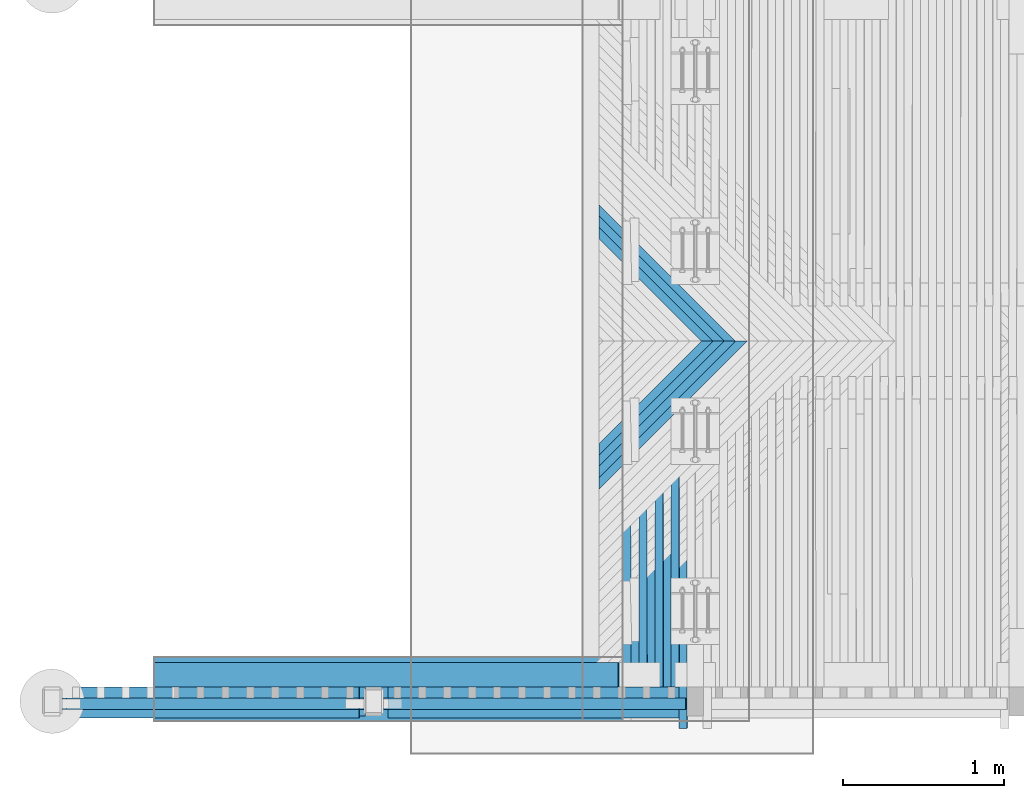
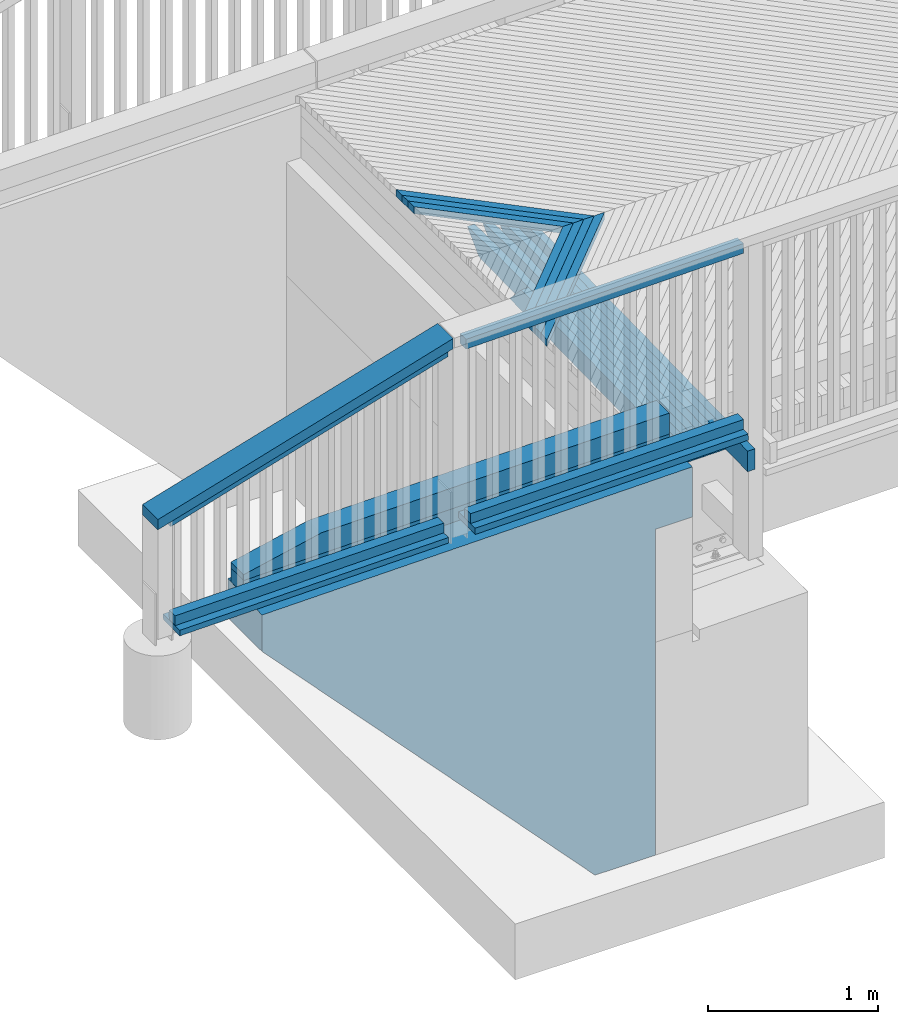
# One storey, part 16 of 52: 25 beams.
"""IFC2X3 building model written with IfcOpenShell, lengths in millimetres."""

from ifc_helpers import new_model, si_unit, frame, origin_with_axes, place, context, subcontext, project, spatial, faceted_brep, material, type_object, element, save


model = new_model("IFC2X3")

# Units and contexts
model_context = context("Model", 3, precision=1e-05, world=origin_with_axes())
body_context = subcontext(model_context, "Body", "Model", "MODEL_VIEW")
ifc_project = project(units=[si_unit("LENGTHUNIT", "METRE", prefix="MILLI"), si_unit("AREAUNIT", "SQUARE_METRE"), si_unit("VOLUMEUNIT", "CUBIC_METRE"), si_unit("MASSUNIT", "GRAM", prefix="KILO"), si_unit("TIMEUNIT", "SECOND"), si_unit("PLANEANGLEUNIT", "RADIAN"), si_unit("SOLIDANGLEUNIT", "STERADIAN"), si_unit("THERMODYNAMICTEMPERATUREUNIT", "DEGREE_CELSIUS"), si_unit("LUMINOUSINTENSITYUNIT", "LUMEN")], contexts=[model_context])

# Site, building, storey
site_placement = place(None, origin_with_axes())
site = spatial("IfcSite", under=ifc_project, at=site_placement, Name="Undefined", CompositionType="ELEMENT")
building_placement = place(site_placement, origin_with_axes())
building = spatial("IfcBuilding", under=site, at=building_placement, Name="Undefined", CompositionType="ELEMENT")
storey_placement = place(building_placement, origin_with_axes())
storey = spatial("IfcBuildingStorey", under=building, at=storey_placement, Name="Undefined", CompositionType="ELEMENT", Elevation=0.0)

# Beams
ifc_material_1 = material(Name="TIMBER/Timber_Undefined")
beam_type_1 = type_object("IfcBeamType", Name="150*100", PredefinedType="NOTDEFINED")
beam_1_placement = place(storey_placement, frame((-3364.03058800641, 289.999999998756, 3118.6757290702), z_axis=(0.0, -1.0, 0.0), x_axis=(0.999904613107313, 0.0, 0.0138117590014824)))
element("IfcBeam", 1, at=beam_1_placement, inside=storey, type_object=beam_type_1, material=ifc_material_1, Name="TÖRMÄYSJOHDE", ObjectType="150*100", context=body_context, shape_type="Brep", body=[
    faceted_brep([(-3.63797880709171e-12, 50.0, -75.0), (-3.63797880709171e-12, 50.0, 75.0), (2885.27521749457, 50.0, 75.0), (2885.27521749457, 50.0, -75.0), (0.0, -49.9999999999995, 75.0), (2885.27521749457, -49.9999999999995, 75.0), (0.0, -49.9999999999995, -75.0), (2885.27521749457, -49.9999999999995, -75.0)], [[[0, 1, 2, 3]], [[1, 4, 5, 2]], [[4, 6, 7, 5]], [[6, 0, 3, 7]], [[5, 7, 3, 2]], [[6, 4, 1, 0]]]),
])
beam_type_2 = type_object("IfcBeamType", Name="150*150", PredefinedType="NOTDEFINED")
beam_2_placement = place(storey_placement, frame((-3366.03588197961, 289.999999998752, 3243.66334439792), z_axis=(0.0, -1.0, 0.0), x_axis=(0.999904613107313, 0.0, 0.0138117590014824)))
element("IfcBeam", 2, at=beam_2_placement, inside=storey, type_object=beam_type_2, material=ifc_material_1, Name="TÖRMÄYSJOHDE", ObjectType="150*150", context=body_context, shape_type="Brep", body=[
    faceted_brep([(0.0, -75.0000000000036, 75.0000000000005), (0.0, -75.0, -74.9999999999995), (2885.27521749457, -74.9999999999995, -75.0), (2885.27521749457, -74.9999999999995, 75.0), (2885.27521749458, 75.0, -75.0), (2885.27521749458, 75.0, 75.0), (529.511118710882, 75.0, -75.0), (529.511118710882, 75.0, 75.0), (4.54747350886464e-13, -33.1222400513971, 75.0), (4.54747350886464e-13, -33.1222400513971, -75.0)], [[[0, 1, 2, 3]], [[3, 2, 4, 5]], [[5, 4, 6, 7]], [[0, 3, 5, 7, 8]], [[1, 0, 8, 9]], [[4, 2, 1, 9, 6]], [[8, 7, 6, 9]]]),
])
ifc_material_2 = material(Name="CONCRETE/Concrete_Undefined")
beam_type_3 = type_object("IfcBeamType", Name="2800*400", PredefinedType="NOTDEFINED")
beam_3_placement = place(storey_placement, frame((-430.340033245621, 200.0, 1712.66804762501), z_axis=(-0.0140428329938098, 0.0, 0.999901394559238), x_axis=(-0.999901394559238, 0.0, -0.0140428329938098)))
element("IfcBeam", 3, at=beam_3_placement, inside=storey, type_object=beam_type_3, material=ifc_material_2, Name="SIIPIMUURI", ObjectType="2800*400", context=body_context, shape_type="Brep", body=[
    faceted_brep([(0.280884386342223, 199.999999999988, 1380.0), (3.63797880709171e-12, -200.0, 1400.0), (2915.2874638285, -200.0, 1400.0), (2915.5683481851, 200.0, 1380.0), (270.457242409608, 199.999999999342, -54.8754727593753), (270.457242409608, -200.0, -54.8754727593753), (255.29098277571, -200.0, 1025.01803336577), (255.29098277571, 199.999999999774, 1025.01803336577), (288.066954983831, 200.0, -1308.75182153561), (288.066954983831, -200.0, -1308.75182153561), (697.173583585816, 200.0, -1303.00623892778), (697.173583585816, -200.0, -1303.00623892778), (2919.22031514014, 200.0, 1119.96651154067), (2919.22031514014, -200.0, 1119.96651154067), (5.31563413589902, -200.0, 1021.50732511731), (5.31563413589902, 199.999999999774, 1021.50732511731)], [[[0, 1, 2, 3]], [[4, 5, 6, 7]], [[8, 9, 5, 4]], [[10, 11, 9, 8]], [[12, 13, 11, 10]], [[13, 12, 3, 2]], [[6, 5, 9, 11, 13, 2, 1, 14]], [[7, 6, 14, 15]], [[12, 10, 8, 4, 7, 15, 0, 3]], [[15, 14, 1, 0]]]),
])
beam_type_4 = type_object("IfcBeamType", Name="70*70", PredefinedType="NOTDEFINED")
beam_4_placement = place(storey_placement, frame((-3930.40492440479, 110.009954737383, 3879.53617466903), z_axis=(0.0, -1.0, 0.0), x_axis=(0.958203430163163, 0.0, 0.286087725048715)))
element("IfcBeam", 4, at=beam_4_placement, inside=storey, type_object=beam_type_4, material=ifc_material_1, Name="BEAM", ObjectType="70*70", context=body_context, shape_type="Brep", body=[
    faceted_brep([(0.436228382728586, 35.0000000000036, -35.0), (0.436228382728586, 35.0000000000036, 35.0), (1962.44131083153, 35.0000000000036, 35.0), (1962.44131083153, 35.0000000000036, -35.0), (-20.4634471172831, -34.9999999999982, 35.0), (1941.54163533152, -34.9999999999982, 35.0), (-20.4634471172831, -34.9999999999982, -35.0), (1941.54163533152, -34.9999999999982, -35.0)], [[[0, 1, 2, 3]], [[1, 4, 5, 2]], [[4, 6, 7, 5]], [[6, 0, 3, 7]], [[5, 7, 3, 2]], [[6, 4, 1, 0]]]),
])
beam_5_placement = place(storey_placement, frame((-3909.4703719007, 110.00997004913, 3156.34116342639), z_axis=(0.0, -1.0, 0.0), x_axis=(0.999883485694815, 0.0, 0.0152648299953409)))
element("IfcBeam", 5, at=beam_5_placement, inside=storey, type_object=beam_type_4, material=ifc_material_1, Name="BEAM", ObjectType="70*70", context=body_context, shape_type="Brep", body=[
    faceted_brep([(-3.63797880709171e-12, 35.0000000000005, -35.0), (-3.63797880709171e-12, 35.0000000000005, 35.0), (1820.22135781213, 35.0, 35.0), (1820.22135781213, 35.0, -35.0), (-3.63797880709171e-12, -34.9999999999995, 35.0), (1820.22135781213, -34.9999999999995, 35.0), (-3.63797880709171e-12, -34.9999999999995, -35.0), (1820.22135781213, -34.9999999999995, -35.0)], [[[0, 1, 2, 3]], [[1, 4, 5, 2]], [[4, 6, 7, 5]], [[6, 0, 3, 7]], [[5, 7, 3, 2]], [[6, 4, 1, 0]]]),
])
beam_6_placement = place(storey_placement, frame((-1909.4703719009, 110.00997004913, 3186.87116342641), z_axis=(0.0, -1.0, 0.0), x_axis=(0.999883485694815, 0.0, 0.0152648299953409)))
element("IfcBeam", 6, at=beam_6_placement, inside=storey, type_object=beam_type_4, material=ifc_material_1, Name="BEAM", ObjectType="70*70", context=body_context, shape_type="Brep", body=[
    faceted_brep([(-3.63797880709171e-12, 35.0000000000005, -35.0), (-3.63797880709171e-12, 35.0000000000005, 35.0), (1850.22135781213, 34.9999999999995, 35.0), (1850.22135781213, 34.9999999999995, -35.0), (-3.63797880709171e-12, -34.9999999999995, 35.0), (1850.22135781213, -35.0, 35.0), (-3.63797880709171e-12, -34.9999999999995, -35.0), (1850.22135781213, -35.0, -35.0)], [[[0, 1, 2, 3]], [[1, 4, 5, 2]], [[4, 6, 7, 5]], [[6, 0, 3, 7]], [[5, 7, 3, 2]], [[6, 4, 1, 0]]]),
])
beam_7_placement = place(storey_placement, frame((-1939.46687647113, 110.009970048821, 4446.41321852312), z_axis=(0.0, -1.0, 0.0), x_axis=(0.999883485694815, 0.0, 0.0152648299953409)))
element("IfcBeam", 7, at=beam_7_placement, inside=storey, type_object=beam_type_4, material=ifc_material_1, Name="BEAM", ObjectType="70*70", context=body_context, shape_type="Brep", body=[
    faceted_brep([(-3.63797880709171e-12, 35.0000000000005, -35.0), (-3.63797880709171e-12, 35.0000000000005, 35.0), (1880.22135781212, 35.0000000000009, 35.0), (1880.22135781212, 35.0000000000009, -35.0), (-3.63797880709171e-12, -34.9999999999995, 35.0), (1880.22135781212, -35.0, 35.0), (-3.63797880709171e-12, -34.9999999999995, -35.0), (1880.22135781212, -35.0, -35.0)], [[[0, 1, 2, 3]], [[1, 4, 5, 2]], [[4, 6, 7, 5]], [[6, 0, 3, 7]], [[5, 7, 3, 2]], [[6, 4, 1, 0]]]),
])
beam_type_5 = type_object("IfcBeamType", Name="195*40", PredefinedType="NOTDEFINED")
beam_8_placement = place(storey_placement, frame((-3909.69934434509, 117.50997004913, 3101.33941571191), z_axis=(0.0, -1.0, 0.0), x_axis=(0.999883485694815, 0.0, 0.0152648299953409)))
element("IfcBeam", 8, at=beam_8_placement, inside=storey, type_object=beam_type_5, material=ifc_material_1, Name="BEAM", ObjectType="195*40", context=body_context, shape_type="Brep", body=[
    faceted_brep([(0.0, 20.0, -97.5), (0.0, 20.0, 97.5), (1820.22135781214, 20.0, 97.5), (1820.22135781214, 20.0, -97.5), (3.63797880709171e-12, -20.0, 97.5), (1820.22135781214, -20.0, 97.5), (3.63797880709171e-12, -20.0, -97.5), (1820.22135781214, -20.0, -97.5)], [[[0, 1, 2, 3]], [[1, 4, 5, 2]], [[4, 6, 7, 5]], [[6, 0, 3, 7]], [[5, 7, 3, 2]], [[6, 4, 1, 0]]]),
])
beam_type_6 = type_object("IfcBeamType", Name="180*70", PredefinedType="NOTDEFINED")
beam_9_placement = place(storey_placement, frame((-2039.93420243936, 125.009964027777, 4517.05500293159), z_axis=(0.0, -1.0, 0.0), x_axis=(-0.958243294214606, 0.0, -0.285954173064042)))
element("IfcBeam", 9, at=beam_9_placement, inside=storey, type_object=beam_type_6, material=ifc_material_1, Name="YLÄJOHDE", ObjectType="180*70", context=body_context, shape_type="Brep", body=[
    faceted_brep([(41.6879268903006, 35.0699417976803, -90.0), (41.8028913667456, -34.9299637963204, -90.0), (0.0598773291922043, -34.9999487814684, -90.0), (20.9594530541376, 35.0351891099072, -90.0), (41.8028913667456, -34.9299637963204, 90.0), (41.6879268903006, 35.0699417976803, 90.0), (20.9594530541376, 35.0351891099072, 90.0), (0.0598773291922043, -34.9999487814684, 90.0), (83.4357358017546, 35.1370779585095, 90.0), (83.4357358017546, 35.1370779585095, -90.0), (83.5459100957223, -34.8628353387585, -90.0), (83.5459100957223, -34.8628353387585, 90.0), (125.288933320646, -34.7985634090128, 90.0), (125.183549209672, 35.2013572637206, 90.0), (125.183549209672, 35.2013572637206, -90.0), (125.288933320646, -34.7985634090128, -90.0), (167.031960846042, -34.7371480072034, -90.0), (167.031960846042, -34.7371480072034, 90.0), (166.931366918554, 35.2627797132, 90.0), (166.931366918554, 35.2627797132, -90.0), (208.679188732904, 35.3213453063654, -90.0), (208.774992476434, -34.6785891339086, -90.0), (208.774992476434, -34.6785891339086, 90.0), (208.679188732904, 35.3213453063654, 90.0), (250.427014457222, 35.3770540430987, 90.0), (250.427014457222, 35.3770540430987, -90.0), (250.518028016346, -34.6228867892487, -90.0), (250.518028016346, -34.6228867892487, 90.0), (292.261067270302, -34.57004097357, 90.0), (292.17484389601, 35.4299059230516, 90.0), (292.17484389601, 35.4299059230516, -90.0), (292.261067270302, -34.57004097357, -90.0), (334.004110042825, -34.5200516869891, -90.0), (334.004110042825, -34.5200516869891, 90.0), (333.92267685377, 35.4799009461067, 90.0), (333.92267685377, 35.4799009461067, -90.0), (375.670513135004, 35.527039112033, -90.0), (375.747156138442, -34.4729189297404, -90.0), (375.747156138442, -34.4729189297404, 90.0), (375.670513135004, 35.527039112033, 90.0), (417.418352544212, 35.5713204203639, 90.0), (417.418352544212, 35.5713204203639, -90.0), (417.490205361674, -34.428642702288, -90.0), (417.490205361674, -34.428642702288, 90.0), (459.233257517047, -34.3872230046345, 90.0), (459.166194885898, 35.6127448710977, 90.0), (459.166194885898, 35.6127448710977, -90.0), (459.233257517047, -34.3872230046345, -90.0), (500.976312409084, -34.3486598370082, -90.0), (500.976312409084, -34.3486598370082, 90.0), (500.914039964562, 35.651312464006, 90.0), (500.914039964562, 35.651312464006, -90.0), (542.661887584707, 35.6870231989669, -90.0), (542.71936984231, -34.3129531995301, -90.0), (542.71936984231, -34.3129531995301, 90.0), (542.661887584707, 35.6870231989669, 90.0), (584.409737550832, 35.7198770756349, 90.0), (584.409737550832, 35.7198770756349, -90.0), (584.462429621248, -34.2801030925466, -90.0), (584.462429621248, -34.2801030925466, 90.0), (626.205491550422, -34.2501095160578, 90.0), (626.157589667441, 35.7498740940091, 90.0), (626.157589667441, 35.7498740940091, -90.0), (626.205491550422, -34.2501095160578, -90.0), (667.948555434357, -34.222972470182, -90.0), (667.948555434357, -34.222972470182, 90.0), (667.905443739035, 35.777014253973, 90.0), (667.905443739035, 35.777014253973, -90.0), (709.653299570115, 35.801297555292, -90.0), (709.691621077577, -34.19869195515, -90.0), (709.691621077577, -34.19869195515, 90.0), (709.653299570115, 35.801297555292, 90.0), (751.401156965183, 35.8227239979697, 90.0), (751.401156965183, 35.8227239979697, -90.0), (751.434688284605, -34.1772679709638, -90.0), (751.434688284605, -34.1772679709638, 90.0), (793.177756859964, -34.1587005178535, 90.0), (793.14901572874, 35.8412935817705, 90.0), (793.14901572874, 35.8412935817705, -90.0), (793.177756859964, -34.1587005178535, -90.0), (834.920826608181, -34.1429895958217, -90.0), (834.920826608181, -34.1429895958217, 90.0), (834.896875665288, 35.8570063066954, 90.0), (834.896875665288, 35.8570063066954, -90.0), (876.644736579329, 35.8698621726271, -90.0), (876.663897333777, -34.1301352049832, -90.0), (876.663897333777, -34.1301352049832, 90.0), (876.644736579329, 35.8698621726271, 90.0), (918.392598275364, 35.8798611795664, 90.0), (918.392598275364, 35.8798611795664, -90.0), (918.406968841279, -34.1201373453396, -90.0), (918.406968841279, -34.1201373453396, 90.0), (960.150040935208, -34.1129960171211, 90.0), (960.140460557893, 35.8870033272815, 90.0), (960.140460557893, 35.8870033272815, -90.0), (960.150040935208, -34.1129960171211, -90.0), (1001.89311342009, -34.1087112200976, -90.0), (1001.89311342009, -34.1087112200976, 90.0), (1001.88832323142, 35.8912886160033, 90.0), (1001.88832323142, 35.8912886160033, -90.0), (1043.63618610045, 35.8927170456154, -90.0), (1043.63618610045, -34.1072829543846, -90.0), (1043.63618610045, -34.1072829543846, 90.0), (1043.63618610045, 35.8927170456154, 90.0), (1085.38404896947, 35.8912886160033, 90.0), (1085.38404896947, 35.8912886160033, -90.0), (1085.3792587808, -34.1087112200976, -90.0), (1085.3792587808, -34.1087112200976, 90.0), (1127.12233126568, -34.1129960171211, 90.0), (1127.131911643, 35.8870033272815, 90.0), (1127.131911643, 35.8870033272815, -90.0), (1127.12233126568, -34.1129960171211, -90.0), (1168.86540335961, -34.1201373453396, -90.0), (1168.86540335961, -34.1201373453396, 90.0), (1168.87977392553, 35.8798611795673, 90.0), (1168.87977392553, 35.8798611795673, -90.0), (1210.62763562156, 35.8698621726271, -90.0), (1210.60847486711, -34.1301352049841, -90.0), (1210.60847486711, -34.1301352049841, 90.0), (1210.62763562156, 35.8698621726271, 90.0), (1252.3754965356, 35.8570063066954, 90.0), (1252.3754965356, 35.8570063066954, -90.0), (1252.35154559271, -34.1429895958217, -90.0), (1252.35154559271, -34.1429895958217, 90.0), (1294.09461534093, -34.1587005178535, 90.0), (1294.12335647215, 35.8412935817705, 90.0), (1294.12335647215, 35.8412935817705, -90.0), (1294.09461534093, -34.1587005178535, -90.0), (1335.83768391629, -34.1772679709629, -90.0), (1335.83768391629, -34.1772679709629, 90.0), (1335.87121523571, 35.8227239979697, 90.0), (1335.87121523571, 35.8227239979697, -90.0), (1377.61907263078, 35.8012975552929, -90.0), (1377.58075112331, -34.1986919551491, -90.0), (1377.58075112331, -34.1986919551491, 90.0), (1377.61907263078, 35.8012975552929, 90.0), (1419.36692846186, 35.777014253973, 90.0), (1419.36692846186, 35.777014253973, -90.0), (1419.32381676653, -34.222972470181, -90.0), (1419.32381676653, -34.222972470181, 90.0), (1461.06688065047, -34.2501095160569, 90.0), (1461.11478253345, 35.7498740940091, 90.0), (1461.11478253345, 35.7498740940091, -90.0), (1461.06688065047, -34.2501095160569, -90.0), (1502.80994257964, -34.2801030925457, -90.0), (1502.80994257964, -34.2801030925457, 90.0), (1502.86263465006, 35.7198770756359, 90.0), (1502.86263465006, 35.7198770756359, -90.0), (1544.61048461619, 35.6870231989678, -90.0), (1544.55300235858, -34.3129531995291, -90.0), (1544.55300235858, -34.3129531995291, 90.0), (1544.61048461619, 35.6870231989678, 90.0), (1586.35833223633, 35.6513124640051, 90.0), (1586.35833223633, 35.6513124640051, -90.0), (1586.29605979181, -34.3486598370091, -90.0), (1586.29605979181, -34.3486598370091, 90.0), (1628.03911468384, -34.3872230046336, 90.0), (1628.10617731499, 35.6127448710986, 90.0), (1628.10617731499, 35.6127448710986, -90.0), (1628.03911468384, -34.3872230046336, -90.0), (1669.78216683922, -34.428642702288, -90.0), (1669.78216683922, -34.428642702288, 90.0), (1669.85401965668, 35.571320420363, 90.0), (1669.85401965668, 35.571320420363, -90.0), (1711.60185906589, 35.527039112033, -90.0), (1711.52521606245, -34.4729189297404, -90.0), (1711.52521606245, -34.4729189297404, 90.0), (1711.60185906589, 35.527039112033, 90.0), (1753.34969534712, 35.4799009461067, 90.0), (1753.34969534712, 35.4799009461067, -90.0), (1753.26826215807, -34.5200516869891, -90.0), (1753.26826215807, -34.5200516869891, 90.0), (1795.01130493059, -34.5700409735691, 90.0), (1795.09752830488, 35.4299059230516, 90.0), (1795.09752830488, 35.4299059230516, -90.0), (1795.01130493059, -34.5700409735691, -90.0), (1836.75434418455, -34.6228867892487, -90.0), (1836.75434418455, -34.6228867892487, 90.0), (1836.84535774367, 35.3770540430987, 90.0), (1836.84535774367, 35.3770540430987, -90.0), (1878.59318346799, 35.3213453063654, -90.0), (1878.49737972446, -34.6785891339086, -90.0), (1878.49737972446, -34.6785891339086, 90.0), (1878.59318346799, 35.3213453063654, 90.0), (1920.34100528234, 35.2627797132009, 90.0), (1920.34100528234, 35.2627797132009, -90.0), (1920.24041135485, -34.7371480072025, -90.0), (1920.24041135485, -34.7371480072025, 90.0), (1961.98343888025, -34.7985634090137, 90.0), (1962.08882299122, 35.2013572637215, 90.0), (1962.08882299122, 35.2013572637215, -90.0), (1961.98343888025, -34.7985634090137, -90.0), (2003.72646210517, -34.8628353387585, -90.0), (2003.72646210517, -34.8628353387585, 90.0), (2003.83663639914, 35.1370779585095, 90.0), (2003.83663639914, 35.1370779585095, -90.0), (2045.58444531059, 35.0699417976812, -90.0), (2045.46948083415, -34.9299637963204, -90.0), (2045.46948083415, -34.9299637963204, 90.0), (2045.58444531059, 35.0699417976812, 90.0), (2087.33224953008, 34.9999487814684, 90.0), (2087.33224953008, 34.9999487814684, -90.0), (2087.2124948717, -34.9999487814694, -90.0), (2087.2124948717, -34.9999487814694, 90.0), (2108.09074494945, 34.9637252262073, 90.0), (2108.09074494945, 34.9637252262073, -90.0)], [[[0, 1, 2, 3]], [[4, 5, 6, 7]], [[1, 4, 7, 2]], [[6, 3, 2, 7]], [[5, 0, 3, 6]], [[0, 5, 8, 9]], [[1, 0, 9, 10]], [[4, 1, 10, 11]], [[5, 4, 11, 8]], [[8, 11, 12, 13]], [[9, 8, 13, 14]], [[10, 9, 14, 15]], [[11, 10, 15, 12]], [[12, 15, 16, 17]], [[13, 12, 17, 18]], [[14, 13, 18, 19]], [[15, 14, 19, 16]], [[16, 19, 20, 21]], [[17, 16, 21, 22]], [[18, 17, 22, 23]], [[19, 18, 23, 20]], [[20, 23, 24, 25]], [[21, 20, 25, 26]], [[22, 21, 26, 27]], [[23, 22, 27, 24]], [[24, 27, 28, 29]], [[25, 24, 29, 30]], [[26, 25, 30, 31]], [[27, 26, 31, 28]], [[28, 31, 32, 33]], [[29, 28, 33, 34]], [[30, 29, 34, 35]], [[31, 30, 35, 32]], [[32, 35, 36, 37]], [[33, 32, 37, 38]], [[34, 33, 38, 39]], [[35, 34, 39, 36]], [[36, 39, 40, 41]], [[37, 36, 41, 42]], [[38, 37, 42, 43]], [[39, 38, 43, 40]], [[40, 43, 44, 45]], [[41, 40, 45, 46]], [[42, 41, 46, 47]], [[43, 42, 47, 44]], [[44, 47, 48, 49]], [[45, 44, 49, 50]], [[46, 45, 50, 51]], [[47, 46, 51, 48]], [[48, 51, 52, 53]], [[49, 48, 53, 54]], [[50, 49, 54, 55]], [[51, 50, 55, 52]], [[52, 55, 56, 57]], [[53, 52, 57, 58]], [[54, 53, 58, 59]], [[55, 54, 59, 56]], [[56, 59, 60, 61]], [[57, 56, 61, 62]], [[58, 57, 62, 63]], [[59, 58, 63, 60]], [[60, 63, 64, 65]], [[61, 60, 65, 66]], [[62, 61, 66, 67]], [[63, 62, 67, 64]], [[64, 67, 68, 69]], [[65, 64, 69, 70]], [[66, 65, 70, 71]], [[67, 66, 71, 68]], [[68, 71, 72, 73]], [[69, 68, 73, 74]], [[70, 69, 74, 75]], [[71, 70, 75, 72]], [[72, 75, 76, 77]], [[73, 72, 77, 78]], [[74, 73, 78, 79]], [[75, 74, 79, 76]], [[76, 79, 80, 81]], [[77, 76, 81, 82]], [[78, 77, 82, 83]], [[79, 78, 83, 80]], [[80, 83, 84, 85]], [[81, 80, 85, 86]], [[82, 81, 86, 87]], [[83, 82, 87, 84]], [[84, 87, 88, 89]], [[85, 84, 89, 90]], [[86, 85, 90, 91]], [[87, 86, 91, 88]], [[88, 91, 92, 93]], [[89, 88, 93, 94]], [[90, 89, 94, 95]], [[91, 90, 95, 92]], [[92, 95, 96, 97]], [[93, 92, 97, 98]], [[94, 93, 98, 99]], [[95, 94, 99, 96]], [[96, 99, 100, 101]], [[97, 96, 101, 102]], [[98, 97, 102, 103]], [[99, 98, 103, 100]], [[100, 103, 104, 105]], [[101, 100, 105, 106]], [[102, 101, 106, 107]], [[103, 102, 107, 104]], [[104, 107, 108, 109]], [[105, 104, 109, 110]], [[106, 105, 110, 111]], [[107, 106, 111, 108]], [[108, 111, 112, 113]], [[109, 108, 113, 114]], [[110, 109, 114, 115]], [[111, 110, 115, 112]], [[112, 115, 116, 117]], [[113, 112, 117, 118]], [[114, 113, 118, 119]], [[115, 114, 119, 116]], [[116, 119, 120, 121]], [[117, 116, 121, 122]], [[118, 117, 122, 123]], [[119, 118, 123, 120]], [[120, 123, 124, 125]], [[121, 120, 125, 126]], [[122, 121, 126, 127]], [[123, 122, 127, 124]], [[124, 127, 128, 129]], [[125, 124, 129, 130]], [[126, 125, 130, 131]], [[127, 126, 131, 128]], [[128, 131, 132, 133]], [[129, 128, 133, 134]], [[130, 129, 134, 135]], [[131, 130, 135, 132]], [[132, 135, 136, 137]], [[133, 132, 137, 138]], [[134, 133, 138, 139]], [[135, 134, 139, 136]], [[136, 139, 140, 141]], [[137, 136, 141, 142]], [[138, 137, 142, 143]], [[139, 138, 143, 140]], [[140, 143, 144, 145]], [[141, 140, 145, 146]], [[142, 141, 146, 147]], [[143, 142, 147, 144]], [[144, 147, 148, 149]], [[145, 144, 149, 150]], [[146, 145, 150, 151]], [[147, 146, 151, 148]], [[148, 151, 152, 153]], [[149, 148, 153, 154]], [[150, 149, 154, 155]], [[151, 150, 155, 152]], [[152, 155, 156, 157]], [[153, 152, 157, 158]], [[154, 153, 158, 159]], [[155, 154, 159, 156]], [[156, 159, 160, 161]], [[157, 156, 161, 162]], [[158, 157, 162, 163]], [[159, 158, 163, 160]], [[160, 163, 164, 165]], [[161, 160, 165, 166]], [[162, 161, 166, 167]], [[163, 162, 167, 164]], [[164, 167, 168, 169]], [[165, 164, 169, 170]], [[166, 165, 170, 171]], [[167, 166, 171, 168]], [[168, 171, 172, 173]], [[169, 168, 173, 174]], [[170, 169, 174, 175]], [[171, 170, 175, 172]], [[172, 175, 176, 177]], [[173, 172, 177, 178]], [[174, 173, 178, 179]], [[175, 174, 179, 176]], [[176, 179, 180, 181]], [[177, 176, 181, 182]], [[178, 177, 182, 183]], [[179, 178, 183, 180]], [[180, 183, 184, 185]], [[181, 180, 185, 186]], [[182, 181, 186, 187]], [[183, 182, 187, 184]], [[184, 187, 188, 189]], [[185, 184, 189, 190]], [[186, 185, 190, 191]], [[187, 186, 191, 188]], [[188, 191, 192, 193]], [[189, 188, 193, 194]], [[190, 189, 194, 195]], [[191, 190, 195, 192]], [[192, 195, 196, 197]], [[193, 192, 197, 198]], [[194, 193, 198, 199]], [[195, 194, 199, 196]], [[196, 199, 200, 201]], [[197, 196, 201, 202]], [[198, 197, 202, 203]], [[199, 198, 203, 200]], [[200, 203, 204]], [[201, 200, 204, 205]], [[201, 205, 202]], [[204, 203, 202, 205]]]),
])
beam_type_7 = type_object("IfcBeamType", Name="50*50", PredefinedType="NOTDEFINED")
beam_10_placement = place(storey_placement, frame((73.4729104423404, 2364.50010032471, 3183.9450845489), z_axis=(0.70722262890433, -0.706981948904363, -0.0035604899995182), x_axis=(-0.706832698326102, -0.706948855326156, -0.0247154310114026)))
element("IfcBeam", 10, at=beam_10_placement, inside=storey, type_object=beam_type_7, material=ifc_material_1, Name="BEAM", ObjectType="50*50", context=body_context, shape_type="Brep", body=[
    faceted_brep([(23.4806436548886, -25.0, -25.0), (-26.4222658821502, -25.0, 24.9999999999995), (-25.0086637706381, 24.9999999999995, 24.9999999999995), (24.894245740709, 25.0, -25.0), (928.319039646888, 25.0000000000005, -25.0), (927.261060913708, -24.9999999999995, -25.0000000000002), (977.288643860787, -24.9999999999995, 24.9999999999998), (978.346622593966, 25.0000000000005, 24.9999999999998)], [[[0, 1, 2, 3]], [[0, 3, 4, 5]], [[1, 0, 5, 6]], [[2, 1, 6, 7]], [[3, 2, 7, 4]], [[6, 5, 4, 7]]]),
])
beam_11_placement = place(storey_placement, frame((73.4729104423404, 2365.49989967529, 3183.9450845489), z_axis=(0.70722262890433, 0.706981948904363, -0.0035604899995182), x_axis=(-0.706832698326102, 0.706948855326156, -0.0247154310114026)))
element("IfcBeam", 11, at=beam_11_placement, inside=storey, type_object=beam_type_7, material=ifc_material_1, Name="BEAM", ObjectType="50*50", context=body_context, shape_type="Brep", body=[
    faceted_brep([(25.0011701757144, -25.0, -25.0), (-25.0011704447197, -25.0, 24.9999999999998), (-26.4154158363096, 25.0000000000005, 24.9999999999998), (23.5869248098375, 25.0, -25.0000000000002), (977.288643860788, 25.0, 24.9999999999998), (927.261060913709, 25.0, -25.0), (928.319039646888, -25.0000000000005, -25.0000000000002), (978.346622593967, -25.0, 25.0)], [[[0, 1, 2, 3]], [[3, 2, 4, 5]], [[0, 3, 5, 6]], [[1, 0, 6, 7]], [[2, 1, 7, 4]], [[6, 5, 4, 7]]]),
])
beam_12_placement = place(storey_placement, frame((144.191069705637, 2364.50010032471, 3184.87198634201), z_axis=(0.707222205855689, -0.706981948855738, -0.00364356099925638), x_axis=(-0.706835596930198, -0.706948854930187, -0.0246324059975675)))
element("IfcBeam", 12, at=beam_12_placement, inside=storey, type_object=beam_type_7, material=ifc_material_1, Name="BEAM", ObjectType="50*50", context=body_context, shape_type="Brep", body=[
    faceted_brep([(23.4806436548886, -25.0, -25.0), (-26.4222658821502, -25.0, 24.9999999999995), (-25.0086637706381, 24.9999999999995, 24.9999999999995), (24.894245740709, 25.0, -25.0), (1028.36004453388, 25.0000000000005, -25.0), (1027.310376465, -25.0, -24.9999999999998), (1077.33772433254, -25.0, 25.0), (1078.38739240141, 25.0000000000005, 25.0)], [[[0, 1, 2, 3]], [[0, 3, 4, 5]], [[1, 0, 5, 6]], [[2, 1, 6, 7]], [[3, 2, 7, 4]], [[6, 5, 4, 7]]]),
])
beam_13_placement = place(storey_placement, frame((144.191069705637, 2365.49989967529, 3184.87198634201), z_axis=(0.707222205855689, 0.706981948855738, -0.00364356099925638), x_axis=(-0.706835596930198, 0.706948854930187, -0.0246324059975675)))
element("IfcBeam", 13, at=beam_13_placement, inside=storey, type_object=beam_type_7, material=ifc_material_1, Name="BEAM", ObjectType="50*50", context=body_context, shape_type="Brep", body=[
    faceted_brep([(25.0011701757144, -25.0, -25.0), (-25.0011704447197, -25.0, 24.9999999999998), (-26.4154158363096, 25.0000000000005, 24.9999999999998), (23.5869248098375, 25.0, -25.0000000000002), (1077.33772433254, 25.0, 25.0000000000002), (1027.310376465, 25.0, -25.0), (1028.36004453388, -25.0000000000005, -25.0000000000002), (1078.38739240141, -25.0, 25.0)], [[[0, 1, 2, 3]], [[3, 2, 4, 5]], [[0, 3, 5, 6]], [[1, 0, 6, 7]], [[2, 1, 7, 4]], [[6, 5, 4, 7]]]),
])
beam_14_placement = place(storey_placement, frame((214.909337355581, 2364.50010032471, 3185.79058152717), z_axis=(0.707221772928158, -0.706981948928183, -0.00372663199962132), x_axis=(-0.706838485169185, -0.706948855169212, -0.024549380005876)))
element("IfcBeam", 14, at=beam_14_placement, inside=storey, type_object=beam_type_7, material=ifc_material_1, Name="BEAM", ObjectType="50*50", context=body_context, shape_type="Brep", body=[
    faceted_brep([(23.4806436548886, -25.0, -25.0), (-26.4222658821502, -25.0, 24.9999999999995), (-25.0086637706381, 24.9999999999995, 24.9999999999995), (24.894245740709, 25.0, -25.0), (1128.40039913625, 24.9999999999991, -24.9999999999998), (1127.35904169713, -25.0, -25.0), (1177.38615452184, -25.0000000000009, 25.0000000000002), (1178.42751196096, 25.0, 25.0000000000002)], [[[0, 1, 2, 3]], [[0, 3, 4, 5]], [[1, 0, 5, 6]], [[2, 1, 6, 7]], [[3, 2, 7, 4]], [[6, 5, 4, 7]]]),
])
beam_15_placement = place(storey_placement, frame((214.909337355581, 2365.49989967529, 3185.79058152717), z_axis=(0.707221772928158, 0.706981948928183, -0.00372663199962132), x_axis=(-0.706838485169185, 0.706948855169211, -0.024549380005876)))
element("IfcBeam", 15, at=beam_15_placement, inside=storey, type_object=beam_type_7, material=ifc_material_1, Name="BEAM", ObjectType="50*50", context=body_context, shape_type="Brep", body=[
    faceted_brep([(25.0011701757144, -25.0, -25.0), (-25.0011704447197, -25.0, 24.9999999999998), (-26.4154158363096, 25.0000000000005, 24.9999999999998), (23.5869248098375, 25.0, -25.0000000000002), (1177.38615452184, 25.0, 24.9999999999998), (1127.35904169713, 24.9999999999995, -24.9999999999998), (1128.40039913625, -25.0, -25.0), (1178.42751196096, -25.0, 24.9999999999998)], [[[0, 1, 2, 3]], [[3, 2, 4, 5]], [[0, 3, 5, 6]], [[1, 0, 6, 7]], [[2, 1, 7, 4]], [[6, 5, 4, 7]]]),
])
beam_16_placement = place(storey_placement, frame((285.627712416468, 2364.50010032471, 3186.70087009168), z_axis=(0.707221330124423, -0.706981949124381, -0.00380970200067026), x_axis=(-0.70684136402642, -0.706948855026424, -0.0244663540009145)))
element("IfcBeam", 16, at=beam_16_placement, inside=storey, type_object=beam_type_7, material=ifc_material_1, Name="BEAM", ObjectType="50*50", context=body_context, shape_type="Brep", body=[
    faceted_brep([(23.4806436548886, -25.0, -25.0), (-26.4222658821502, -25.0, 24.9999999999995), (-25.0086637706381, 24.9999999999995, 24.9999999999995), (24.894245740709, 25.0, -25.0), (1228.44010482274, 24.9999999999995, -25.0), (1227.40705788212, -24.9999999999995, -25.0000000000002), (1277.43393563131, -25.0, 25.0000000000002), (1278.46698257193, 24.9999999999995, 25.0)], [[[0, 1, 2, 3]], [[0, 3, 4, 5]], [[1, 0, 5, 6]], [[2, 1, 6, 7]], [[3, 2, 7, 4]], [[6, 5, 4, 7]]]),
])
beam_type_8 = type_object("IfcBeamType", Name="195*45", PredefinedType="NOTDEFINED")
beam_17_placement = place(storey_placement, frame((-1909.66118227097, 117.509970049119, 3129.36970699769), z_axis=(0.0, -1.0, 0.0), x_axis=(0.999883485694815, 0.0, 0.0152648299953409)))
element("IfcBeam", 17, at=beam_17_placement, inside=storey, type_object=beam_type_8, material=ifc_material_1, Name="BEAM", ObjectType="195*45", context=body_context, shape_type="Brep", body=[
    faceted_brep([(3.63797880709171e-12, 22.4999999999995, -97.5), (3.63797880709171e-12, 22.4999999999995, 97.5), (1850.22135781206, 22.5, 97.5), (1850.22135781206, 22.5, -97.5), (1.81898940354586e-12, -22.5000000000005, 97.5), (1850.22135781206, -22.5, 97.5), (1.81898940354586e-12, -22.5000000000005, -97.5), (1850.22135781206, -22.5, -97.5)], [[[0, 1, 2, 3]], [[1, 4, 5, 2]], [[4, 6, 7, 5]], [[6, 0, 3, 7]], [[5, 7, 3, 2]], [[6, 4, 1, 0]]]),
])
beam_type_9 = type_object("IfcBeamType", Name="150*50", PredefinedType="NOTDEFINED")
for number, where, z_axis, x_axis, name in (
    (18, (-424.616337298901, 216.50460761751, 3034.19173150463), (-0.0139093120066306, -0.0199960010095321, 0.999703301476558), (-0.000278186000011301, 0.999800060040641, 0.0199940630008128), "BEAM"),
    (19, (-324.626337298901, 216.50460761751, 3035.58173150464), (-0.0139093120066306, -0.0199960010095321, 0.999703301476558), (-0.000278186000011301, 0.999800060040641, 0.0199940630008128), "BEAM"),
    (20, (-224.615754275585, 216.50460761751, 3036.95660402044), (-0.0137432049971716, -0.0199960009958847, 0.999705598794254), (-0.000274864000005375, 0.999800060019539, 0.0199941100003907), "BEAM"),
    (21, (-124.60494419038, 216.50460761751, 3038.31485922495), (-0.0135770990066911, -0.0199960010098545, 0.999707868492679), (-0.000271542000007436, 0.999800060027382, 0.0199941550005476), "BEAM"),
):
    element("IfcBeam", number, at=place(storey_placement, frame(where, z_axis=z_axis, x_axis=x_axis)), inside=storey, type_object=beam_type_9, material=ifc_material_1, Name=name, ObjectType="150*50", context=body_context, shape_type="Brep", body=[
        faceted_brep([(-1.67788130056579e-07, -24.9999999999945, -74.9999999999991), (1.67786311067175e-07, -24.9999999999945, 75.0000000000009), (1.67786311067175e-07, 25.0000000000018, 75.0), (-1.67787220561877e-07, 25.0000000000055, -75.0), (1928.42646353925, -25.0, -75.0), (1789.96936433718, -25.0000000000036, 74.9999999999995), (1789.96936408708, 24.9999999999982, 75.0000000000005), (1928.42646328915, 24.9999999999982, -74.9999999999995)], [[[0, 1, 2, 3]], [[1, 0, 4, 5]], [[2, 1, 5, 6]], [[3, 2, 6, 7]], [[0, 3, 7, 4]], [[7, 6, 5, 4]]]),
    ])
for number, where, z_axis, x_axis, name in (
    (22, (-374.621498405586, 216.504607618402, 3034.88612679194), (-0.0139093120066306, -0.0199960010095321, 0.999703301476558), (-0.000278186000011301, 0.999800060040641, 0.0199940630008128), "BEAM"),
    (23, (-274.611030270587, 216.504607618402, 3036.26930628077), (-0.0137432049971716, -0.0199960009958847, 0.999705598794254), (-0.000274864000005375, 0.999800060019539, 0.0199941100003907), "BEAM"),
    (24, (-174.600333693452, 216.504607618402, 3037.6358684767), (-0.0135770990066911, -0.0199960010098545, 0.999707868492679), (-0.000271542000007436, 0.999800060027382, 0.0199941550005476), "BEAM"),
):
    element("IfcBeam", number, at=place(storey_placement, frame(where, z_axis=z_axis, x_axis=x_axis)), inside=storey, type_object=beam_type_9, material=ifc_material_1, Name=name, ObjectType="150*50", context=body_context, shape_type="Brep", body=[
        faceted_brep([(-1.67788130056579e-07, -24.9999999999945, -74.9999999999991), (1.67786311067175e-07, -24.9999999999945, 75.0000000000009), (1.67786311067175e-07, 25.0000000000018, 75.0), (-1.67787220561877e-07, 25.0000000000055, -75.0), (2375.00494422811, 25.0000000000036, -74.9999999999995), (2375.0049444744, -24.9999999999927, -74.9999999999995), (2510.5924871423, -24.9999999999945, 60.5875430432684), (2150.42514405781, -24.9999999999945, 75.0000000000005), (2150.42515052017, 25.0000000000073, 75.0), (2510.59248715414, 25.0000000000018, 60.5875433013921)], [[[0, 1, 2, 3]], [[0, 3, 4, 5]], [[1, 0, 5, 6, 7]], [[2, 1, 7, 8]], [[4, 3, 2, 8, 9]], [[5, 4, 9, 6]], [[6, 9, 8, 7]]]),
    ])
beam_18_placement = place(storey_placement, frame((-74.5202106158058, -41.4438078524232, 3033.82730974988), z_axis=(-0.0134109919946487, -0.0199960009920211, 0.999710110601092), x_axis=(-0.00026822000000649, 0.999800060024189, 0.0199942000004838)))
element("IfcBeam", 25, at=beam_18_placement, inside=storey, type_object=beam_type_9, material=ifc_material_1, Name="BEAM", ObjectType="150*50", context=body_context, shape_type="Brep", body=[
    faceted_brep([(-1.67788130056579e-07, -24.9999999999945, -74.9999999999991), (1.67786311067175e-07, -24.9999999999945, 75.0000000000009), (1.67786311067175e-07, 25.0000000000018, 75.0), (-1.67787220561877e-07, 25.0000000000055, -75.0), (2633.00494750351, 25.0, -74.9999999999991), (2633.00494763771, -25.0, -74.9999999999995), (2768.59248713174, -25.0, 60.5875397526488), (2408.42506549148, -25.0, 75.0000000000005), (2408.42500056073, 25.0, 75.0), (2768.59248710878, 24.9999999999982, 60.5875398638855)], [[[0, 1, 2, 3]], [[0, 3, 4, 5]], [[1, 0, 5, 6, 7]], [[2, 1, 7, 8]], [[4, 3, 2, 8, 9]], [[5, 4, 9, 6]], [[8, 7, 6, 9]]]),
])

save(model, "model.ifc")
